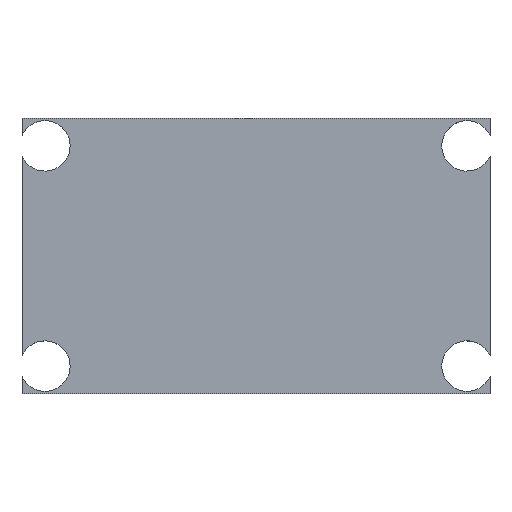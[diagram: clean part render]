
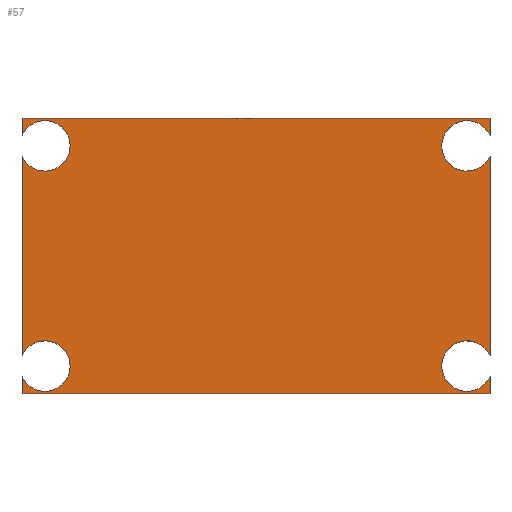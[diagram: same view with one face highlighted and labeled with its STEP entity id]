
A CAD part, top view. The second image highlights one B-rep face of the part: STEP entity #57.
In plain terms, the highlighted planar face has unit normal (0, 0, 1).
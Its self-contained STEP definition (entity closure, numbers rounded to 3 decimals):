
#21 = EDGE_CURVE('',#22,#24,#26,.T.);
#22 = VERTEX_POINT('',#23);
#23 = CARTESIAN_POINT('',(-25.5,-15.,119.8));
#24 = VERTEX_POINT('',#25);
#25 = CARTESIAN_POINT('',(-25.5,-13.146,119.8));
#26 = LINE('',#27,#28);
#27 = CARTESIAN_POINT('',(-25.5,-15.,119.8));
#28 = VECTOR('',#29,1.);
#29 = DIRECTION('',(0.,1.,0.));
#57 = ADVANCED_FACE('',(#58),#169,.T.);
#58 = FACE_BOUND('',#59,.T.);
#59 = EDGE_LOOP('',(#60,#61,#69,#77,#86,#94,#103,#111,#119,#127,#136,
    #145,#153,#162));
#60 = ORIENTED_EDGE('',*,*,#21,.F.);
#61 = ORIENTED_EDGE('',*,*,#62,.T.);
#62 = EDGE_CURVE('',#22,#63,#65,.T.);
#63 = VERTEX_POINT('',#64);
#64 = CARTESIAN_POINT('',(25.5,-15.,119.8));
#65 = LINE('',#66,#67);
#66 = CARTESIAN_POINT('',(-25.5,-15.,119.8));
#67 = VECTOR('',#68,1.);
#68 = DIRECTION('',(1.,0.,0.));
#69 = ORIENTED_EDGE('',*,*,#70,.T.);
#70 = EDGE_CURVE('',#63,#71,#73,.T.);
#71 = VERTEX_POINT('',#72);
#72 = CARTESIAN_POINT('',(25.5,-13.146,119.8));
#73 = LINE('',#74,#75);
#74 = CARTESIAN_POINT('',(25.5,-15.,119.8));
#75 = VECTOR('',#76,1.);
#76 = DIRECTION('',(0.,1.,0.));
#77 = ORIENTED_EDGE('',*,*,#78,.F.);
#78 = EDGE_CURVE('',#79,#71,#81,.T.);
#79 = VERTEX_POINT('',#80);
#80 = CARTESIAN_POINT('',(25.5,-10.854,119.8));
#81 = CIRCLE('',#82,2.75);
#82 = AXIS2_PLACEMENT_3D('',#83,#84,#85);
#83 = CARTESIAN_POINT('',(23.,-12.,119.8));
#84 = DIRECTION('',(0.,0.,1.));
#85 = DIRECTION('',(1.,0.,0.));
#86 = ORIENTED_EDGE('',*,*,#87,.T.);
#87 = EDGE_CURVE('',#79,#88,#90,.T.);
#88 = VERTEX_POINT('',#89);
#89 = CARTESIAN_POINT('',(25.5,10.854,119.8));
#90 = LINE('',#91,#92);
#91 = CARTESIAN_POINT('',(25.5,-15.,119.8));
#92 = VECTOR('',#93,1.);
#93 = DIRECTION('',(0.,1.,0.));
#94 = ORIENTED_EDGE('',*,*,#95,.F.);
#95 = EDGE_CURVE('',#96,#88,#98,.T.);
#96 = VERTEX_POINT('',#97);
#97 = CARTESIAN_POINT('',(25.5,13.146,119.8));
#98 = CIRCLE('',#99,2.75);
#99 = AXIS2_PLACEMENT_3D('',#100,#101,#102);
#100 = CARTESIAN_POINT('',(23.,12.,119.8));
#101 = DIRECTION('',(0.,0.,1.));
#102 = DIRECTION('',(1.,0.,0.));
#103 = ORIENTED_EDGE('',*,*,#104,.T.);
#104 = EDGE_CURVE('',#96,#105,#107,.T.);
#105 = VERTEX_POINT('',#106);
#106 = CARTESIAN_POINT('',(25.5,15.,119.8));
#107 = LINE('',#108,#109);
#108 = CARTESIAN_POINT('',(25.5,-15.,119.8));
#109 = VECTOR('',#110,1.);
#110 = DIRECTION('',(0.,1.,0.));
#111 = ORIENTED_EDGE('',*,*,#112,.F.);
#112 = EDGE_CURVE('',#113,#105,#115,.T.);
#113 = VERTEX_POINT('',#114);
#114 = CARTESIAN_POINT('',(-25.5,15.,119.8));
#115 = LINE('',#116,#117);
#116 = CARTESIAN_POINT('',(-25.5,15.,119.8));
#117 = VECTOR('',#118,1.);
#118 = DIRECTION('',(1.,0.,0.));
#119 = ORIENTED_EDGE('',*,*,#120,.F.);
#120 = EDGE_CURVE('',#121,#113,#123,.T.);
#121 = VERTEX_POINT('',#122);
#122 = CARTESIAN_POINT('',(-25.5,13.146,119.8));
#123 = LINE('',#124,#125);
#124 = CARTESIAN_POINT('',(-25.5,-15.,119.8));
#125 = VECTOR('',#126,1.);
#126 = DIRECTION('',(0.,1.,0.));
#127 = ORIENTED_EDGE('',*,*,#128,.F.);
#128 = EDGE_CURVE('',#129,#121,#131,.T.);
#129 = VERTEX_POINT('',#130);
#130 = CARTESIAN_POINT('',(-20.25,12.,119.8));
#131 = CIRCLE('',#132,2.75);
#132 = AXIS2_PLACEMENT_3D('',#133,#134,#135);
#133 = CARTESIAN_POINT('',(-23.,12.,119.8));
#134 = DIRECTION('',(0.,0.,1.));
#135 = DIRECTION('',(1.,0.,0.));
#136 = ORIENTED_EDGE('',*,*,#137,.F.);
#137 = EDGE_CURVE('',#138,#129,#140,.T.);
#138 = VERTEX_POINT('',#139);
#139 = CARTESIAN_POINT('',(-25.5,10.854,119.8));
#140 = CIRCLE('',#141,2.75);
#141 = AXIS2_PLACEMENT_3D('',#142,#143,#144);
#142 = CARTESIAN_POINT('',(-23.,12.,119.8));
#143 = DIRECTION('',(0.,0.,1.));
#144 = DIRECTION('',(1.,0.,0.));
#145 = ORIENTED_EDGE('',*,*,#146,.F.);
#146 = EDGE_CURVE('',#147,#138,#149,.T.);
#147 = VERTEX_POINT('',#148);
#148 = CARTESIAN_POINT('',(-25.5,-10.854,119.8));
#149 = LINE('',#150,#151);
#150 = CARTESIAN_POINT('',(-25.5,-15.,119.8));
#151 = VECTOR('',#152,1.);
#152 = DIRECTION('',(0.,1.,0.));
#153 = ORIENTED_EDGE('',*,*,#154,.F.);
#154 = EDGE_CURVE('',#155,#147,#157,.T.);
#155 = VERTEX_POINT('',#156);
#156 = CARTESIAN_POINT('',(-20.25,-12.,119.8));
#157 = CIRCLE('',#158,2.75);
#158 = AXIS2_PLACEMENT_3D('',#159,#160,#161);
#159 = CARTESIAN_POINT('',(-23.,-12.,119.8));
#160 = DIRECTION('',(0.,0.,1.));
#161 = DIRECTION('',(1.,0.,0.));
#162 = ORIENTED_EDGE('',*,*,#163,.F.);
#163 = EDGE_CURVE('',#24,#155,#164,.T.);
#164 = CIRCLE('',#165,2.75);
#165 = AXIS2_PLACEMENT_3D('',#166,#167,#168);
#166 = CARTESIAN_POINT('',(-23.,-12.,119.8));
#167 = DIRECTION('',(0.,0.,1.));
#168 = DIRECTION('',(1.,0.,0.));
#169 = PLANE('',#170);
#170 = AXIS2_PLACEMENT_3D('',#171,#172,#173);
#171 = CARTESIAN_POINT('',(-25.5,-15.,119.8));
#172 = DIRECTION('',(0.,0.,1.));
#173 = DIRECTION('',(1.,0.,0.));
